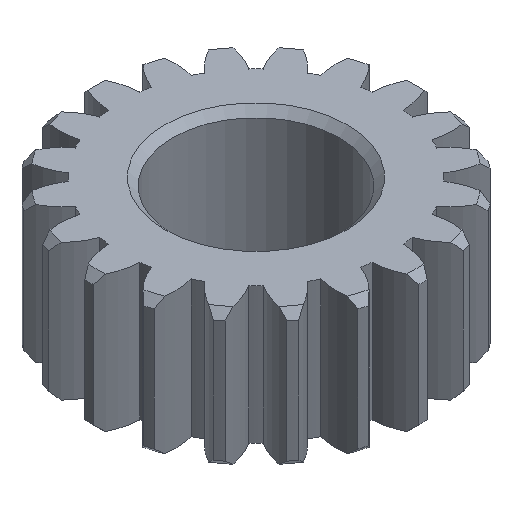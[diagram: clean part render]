
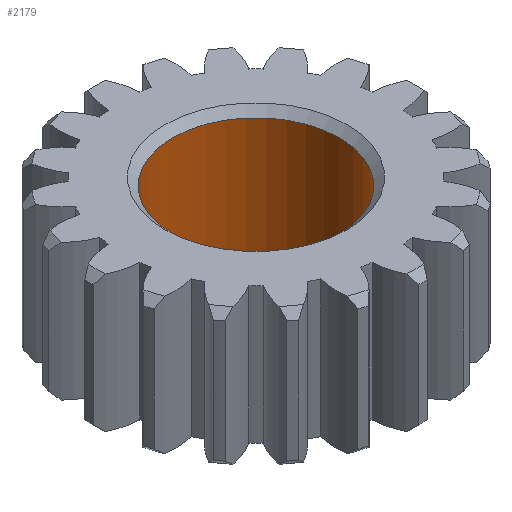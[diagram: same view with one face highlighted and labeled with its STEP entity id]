
A CAD part, isometric view. The second image highlights one B-rep face of the part: STEP entity #2179.
In plain terms, the highlighted cylindrical face has radius 11 mm (diameter 22 mm), a full revolution.
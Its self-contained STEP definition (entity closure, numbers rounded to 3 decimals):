
#255=CYLINDRICAL_SURFACE($,#2309,11.);
#337=FACE_BOUND($,#469,.T.);
#342=FACE_OUTER_BOUND($,#468,.T.);
#468=EDGE_LOOP($,(#1410));
#469=EDGE_LOOP($,(#1411));
#596=CIRCLE($,#2307,11.);
#598=CIRCLE($,#2310,11.);
#800=VERTEX_POINT($,#3377);
#802=VERTEX_POINT($,#3382);
#1044=EDGE_CURVE($,#800,#800,#596,.T.);
#1046=EDGE_CURVE($,#802,#802,#598,.T.);
#1410=ORIENTED_EDGE($,*,*,#1046,.F.);
#1411=ORIENTED_EDGE($,*,*,#1044,.F.);
#2179=ADVANCED_FACE($,(#342,#337),#255,.F.);
#2307=AXIS2_PLACEMENT_3D($,#3378,#2639,#2640);
#2309=AXIS2_PLACEMENT_3D($,#3381,#2643,#2644);
#2310=AXIS2_PLACEMENT_3D($,#3383,#2645,#2646);
#2639=DIRECTION('center_axis',(0.,0.,1.));
#2640=DIRECTION('ref_axis',(-1.,0.,0.));
#2643=DIRECTION('center_axis',(0.,0.,-1.));
#2644=DIRECTION('ref_axis',(-1.,0.,0.));
#2645=DIRECTION('center_axis',(0.,0.,-1.));
#2646=DIRECTION('ref_axis',(-1.,0.,0.));
#3377=CARTESIAN_POINT('',(11.,0.,1.));
#3378=CARTESIAN_POINT('Origin',(0.,0.,1.));
#3381=CARTESIAN_POINT('Origin',(0.,0.,18.));
#3382=CARTESIAN_POINT('',(11.,0.,17.));
#3383=CARTESIAN_POINT('Origin',(0.,0.,17.));
